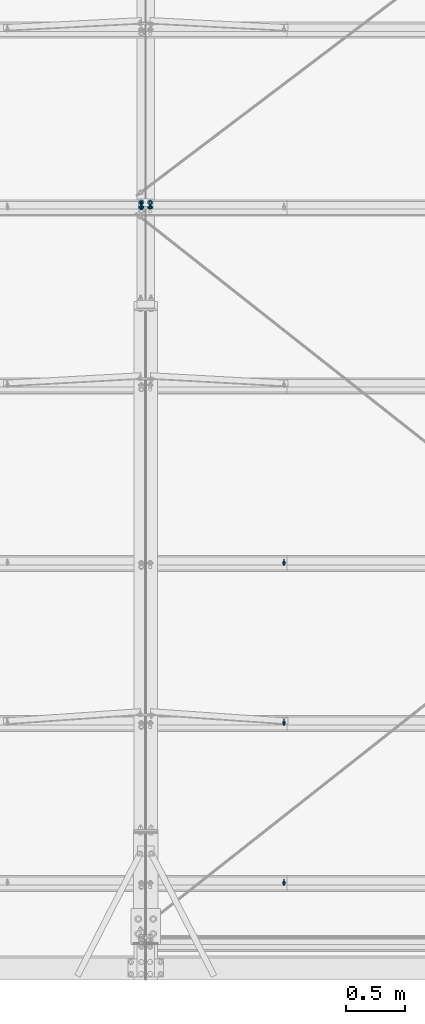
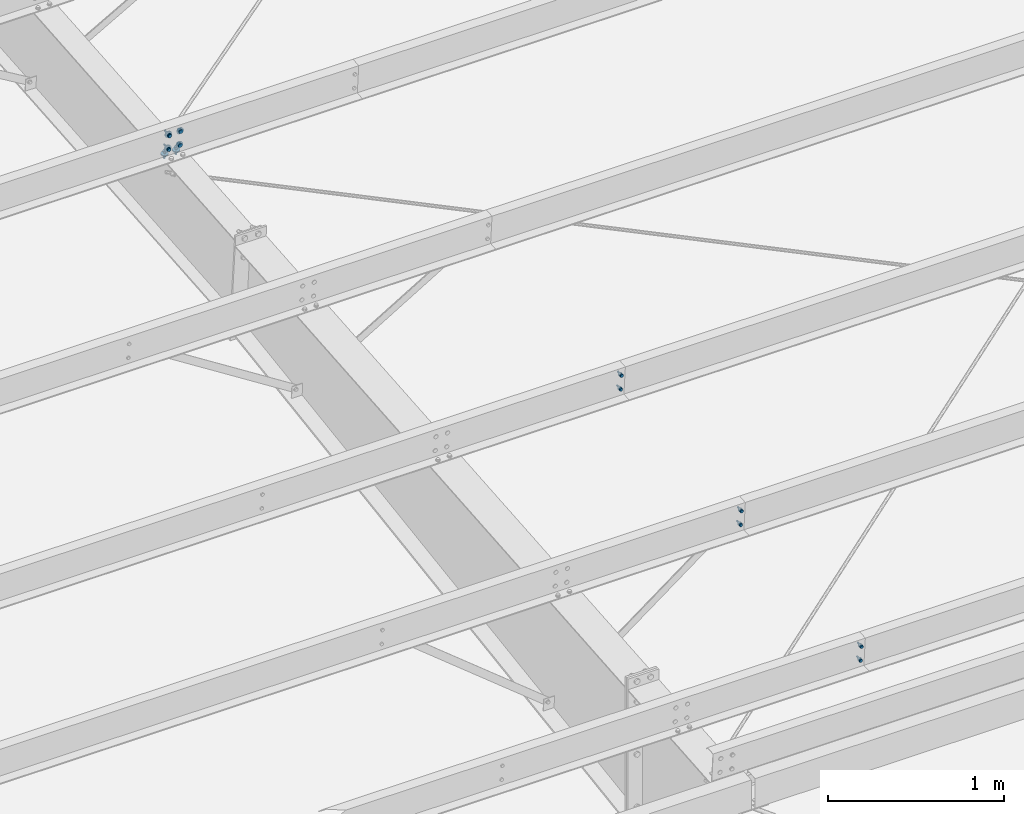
# One storey, part 65 of 185: 8 mechanical fasteners, 7 elements without a shape of their own.
"""IFC2X3 building model written with IfcOpenShell, lengths in millimetres."""

from ifc_helpers import new_model, si_unit, frame, origin_with_axes, origin_2d_with_axis, place, context, subcontext, project, spatial, polyline, circle, outline, extrude, source, transform, mapped, material, type_object, element, aggregate, save


model = new_model("IFC2X3")

# Units and contexts
model_context = context("Model", 3, precision=1e-05, world=origin_with_axes())
body_context = subcontext(model_context, "Body", "Model", "MODEL_VIEW")
ifc_project = project(units=[si_unit("LENGTHUNIT", "METRE", prefix="MILLI"), si_unit("AREAUNIT", "SQUARE_METRE"), si_unit("VOLUMEUNIT", "CUBIC_METRE"), si_unit("MASSUNIT", "GRAM", prefix="KILO"), si_unit("TIMEUNIT", "SECOND"), si_unit("PLANEANGLEUNIT", "RADIAN"), si_unit("SOLIDANGLEUNIT", "STERADIAN"), si_unit("THERMODYNAMICTEMPERATUREUNIT", "DEGREE_CELSIUS"), si_unit("LUMINOUSINTENSITYUNIT", "LUMEN")], contexts=[model_context])

# Site, building, storey
site_placement = place(None, origin_with_axes())
site = spatial("IfcSite", under=ifc_project, at=site_placement, Name="Undefined", CompositionType="ELEMENT")
building_placement = place(site_placement, origin_with_axes())
building = spatial("IfcBuilding", under=site, at=building_placement, Name="Undefined", CompositionType="ELEMENT")
storey_placement = place(building_placement, origin_with_axes())
storey = spatial("IfcBuildingStorey", under=building, at=storey_placement, Name="Undefined", CompositionType="ELEMENT", Elevation=0.0)

# Assembly, mechanical fastener
assembly_1_placement = place(storey_placement, origin_with_axes())
assembly_1 = element("IfcElementAssembly", 1, at=assembly_1_placement, inside=storey, Name="Steel Assembly", AssemblyPlace="NOTDEFINED", PredefinedType="RIGID_FRAME")
ifc_material = material(Name="Undefined")
discrete_accessory_type = type_object("IfcDiscreteAccessoryType", Name="Bolt assembly")
shared_shape_1 = source(origin_with_axes(), body_context, "Body", "SweptSolid", [
    extrude(circle(Radius=7.14374971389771, at=origin_2d_with_axis()), frame((0.0, -1.59000001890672, 0.0), z_axis=(0.0, 1.0, 0.0), x_axis=(1.0, 0.0, 0.0)), (0.0, 0.0, 1.0), 3.3),
    extrude(circle(Radius=13.4937496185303, at=origin_2d_with_axis()), frame((0.0, -5.5587500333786, 0.0), z_axis=(0.0, 1.0, 0.0), x_axis=(1.0, 0.0, 0.0)), (0.0, 0.0, 1.0), 4.0),
    extrude(circle(Radius=22.2250003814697, at=origin_2d_with_axis()), frame((0.0, 1.5900000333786, 0.0), z_axis=(0.0, 1.0, 0.0), x_axis=(1.0, 0.0, 0.0)), (0.0, 0.0, 1.0), 7.9),
    extrude(outline(polyline([(12.8316099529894, 0.0), (6.4158049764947, 11.1125001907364), (-6.4158049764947, 11.1125001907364), (-12.8316099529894, 0.0), (-6.4158049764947, -11.1125001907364), (6.4158049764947, -11.1125001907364), (12.8316099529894, 0.0)])), frame((0.0, 9.5275000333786, 0.0), z_axis=(0.0, 1.0, 0.0), x_axis=(1.0, 0.0, 0.0)), (0.0, 0.0, 1.0), 12.3),
])
mechanical_fastener_1_placement = place(assembly_1_placement, frame((7277.1, 6590.05757436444, 6594.19538192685), z_axis=(1.0, 0.0, 0.0), x_axis=(0.0, 0.0830454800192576, -0.996545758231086)))
mechanical_fastener_1 = element("IfcMechanicalFastener", 2, at=mechanical_fastener_1_placement, type_object=discrete_accessory_type, material=ifc_material, Name="Bolt assembly", NominalDiameter=12.6999998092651, NominalLength=38.0999984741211, context=body_context, shape_type="MappedRepresentation", body=[
    mapped(shared_shape_1, transform((0.0, 0.0, 0.0))),
    mapped(shared_shape_1, transform((101.599998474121, 0.0, 0.0))),
])
aggregate(assembly_1, [mechanical_fastener_1])

assembly_2_placement = place(storey_placement, origin_with_axes())
assembly_2 = element("IfcElementAssembly", 3, at=assembly_2_placement, inside=storey, Name="Steel Assembly", AssemblyPlace="NOTDEFINED", PredefinedType="RIGID_FRAME")
mechanical_fastener_2_placement = place(assembly_2_placement, frame((7200.9, 6590.05757430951, 6594.19538268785), z_axis=(1.0, 0.0, 0.0), x_axis=(0.0, 0.0830454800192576, -0.996545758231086)))
mechanical_fastener_2 = element("IfcMechanicalFastener", 4, at=mechanical_fastener_2_placement, type_object=discrete_accessory_type, material=ifc_material, Name="Bolt assembly", NominalDiameter=12.6999998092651, NominalLength=38.0999984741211, context=body_context, shape_type="MappedRepresentation", body=[
    mapped(shared_shape_1, transform((0.0, 0.0, 0.0))),
    mapped(shared_shape_1, transform((101.599998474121, 0.0, 0.0))),
])
aggregate(assembly_2, [mechanical_fastener_2])

assembly_3_placement = place(storey_placement, origin_with_axes())
assembly_3 = element("IfcElementAssembly", 5, at=assembly_3_placement, inside=storey, Name="Steel Assembly", AssemblyPlace="NOTDEFINED", PredefinedType="RIGID_FRAME")
shared_shape_2 = source(origin_with_axes(), body_context, "Body", "SweptSolid", [
    extrude(circle(Radius=7.14374971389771, at=origin_2d_with_axis()), frame((0.0, -1.69000003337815, 0.0), z_axis=(0.0, 1.0, 0.0), x_axis=(1.0, 0.0, 0.0)), (0.0, 0.0, 1.0), 3.3),
    extrude(circle(Radius=7.14374971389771, at=origin_2d_with_axis()), frame((0.0, -1.4900000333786, 0.0), z_axis=(0.0, 1.0, 0.0), x_axis=(1.0, 0.0, 0.0)), (0.0, 0.0, 1.0), 3.2),
    extrude(outline(polyline([(10.9985221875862, 0.0), (5.4992610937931, 9.52499961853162), (-5.4992610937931, 9.52499961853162), (-10.9985221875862, 0.0), (-5.4992610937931, -9.52499961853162), (5.4992610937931, -9.52499961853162), (10.9985221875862, 0.0)])), frame((0.0, -11.1149996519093, 0.0), z_axis=(0.0, 1.0, 0.0), x_axis=(1.0, 0.0, 0.0)), (0.0, 0.0, 1.0), 9.5),
    extrude(circle(Radius=6.34999990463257, at=origin_2d_with_axis()), frame((0.0, -1.59000001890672, 0.0), z_axis=(0.0, 1.0, 0.0), x_axis=(1.0, 0.0, 0.0)), (0.0, 0.0, 1.0), 38.1),
    extrude(outline(polyline([(12.8316099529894, 0.0), (6.4158049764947, 11.1125001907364), (-6.4158049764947, 11.1125001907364), (-12.8316099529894, 0.0), (-6.4158049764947, -11.1125001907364), (6.4158049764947, -11.1125001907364), (12.8316099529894, 0.0)])), frame((0.0, 1.5900000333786, 0.0), z_axis=(0.0, 1.0, 0.0), x_axis=(1.0, 0.0, 0.0)), (0.0, 0.0, 1.0), 12.3),
])
mechanical_fastener_3_placement = place(assembly_3_placement, frame((8420.1, 3552.58610327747, 6341.07275882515), z_axis=(1.0, 0.0, 0.0), x_axis=(0.0, 0.0830454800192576, -0.996545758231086)))
mechanical_fastener_3 = element("IfcMechanicalFastener", 6, at=mechanical_fastener_3_placement, type_object=discrete_accessory_type, material=ifc_material, Name="Bolt assembly", NominalDiameter=12.6999998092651, NominalLength=38.0999984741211, context=body_context, shape_type="MappedRepresentation", body=[
    mapped(shared_shape_2, transform((0.0, 0.0, 0.0))),
    mapped(shared_shape_2, transform((101.599998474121, 0.0, 0.0))),
])
aggregate(assembly_3, [mechanical_fastener_3])

assembly_4_placement = place(storey_placement, origin_with_axes())
assembly_4 = element("IfcElementAssembly", 7, at=assembly_4_placement, inside=storey, Name="Steel Assembly", AssemblyPlace="NOTDEFINED", PredefinedType="RIGID_FRAME")
shared_shape_3 = source(origin_with_axes(), body_context, "Body", "SweptSolid", [
    extrude(circle(Radius=7.14374971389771, at=origin_2d_with_axis()), frame((0.0, -4.65999985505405, 0.0), z_axis=(0.0, 1.0, 0.0), x_axis=(1.0, 0.0, 0.0)), (0.0, 0.0, 1.0), 4.8),
    extrude(circle(Radius=7.14374971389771, at=origin_2d_with_axis()), frame((0.0, -0.0238014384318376, 0.0), z_axis=(0.0, 1.0, 0.0), x_axis=(1.0, 0.0, 0.0)), (0.0, 0.0, 1.0), 8.0),
    extrude(outline(polyline([(12.8316099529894, 0.0), (6.4158049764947, 11.1125001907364), (-6.4158049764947, 11.1125001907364), (-12.8316099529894, 0.0), (-6.4158049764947, -11.1125001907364), (6.4158049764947, -11.1125001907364), (12.8316099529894, 0.0)])), frame((0.0, -12.697499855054, 0.0), z_axis=(0.0, 1.0, 0.0), x_axis=(1.0, 0.0, 0.0)), (0.0, 0.0, 1.0), 7.9),
    extrude(circle(Radius=6.34999990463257, at=origin_2d_with_axis()), frame((0.0, -4.75999985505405, 0.0), z_axis=(0.0, 1.0, 0.0), x_axis=(1.0, 0.0, 0.0)), (0.0, 0.0, 1.0), 50.8),
    extrude(circle(Radius=22.2250003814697, at=origin_2d_with_axis()), frame((0.0, 7.95019856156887, 0.0), z_axis=(0.0, 1.0, 0.0), x_axis=(1.0, 0.0, 0.0)), (0.0, 0.0, 1.0), 7.9),
    extrude(outline(polyline([(12.8316099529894, 0.0), (6.4158049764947, 11.1125001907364), (-6.4158049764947, 11.1125001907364), (-12.8316099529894, 0.0), (-6.4158049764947, -11.1125001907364), (6.4158049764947, -11.1125001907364), (12.8316099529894, 0.0)])), frame((0.0, 15.8876985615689, 0.0), z_axis=(0.0, 1.0, 0.0), x_axis=(1.0, 0.0, 0.0)), (0.0, 0.0, 1.0), 12.3),
])
mechanical_fastener_4_placement = place(assembly_4_placement, frame((7239.0, 6640.68209888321, 6445.4858411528), z_axis=(-1.0, 0.0, 0.0), x_axis=(0.0, 0.996545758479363, 0.0830454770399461)))
mechanical_fastener_4 = element("IfcMechanicalFastener", 8, at=mechanical_fastener_4_placement, type_object=discrete_accessory_type, material=ifc_material, Name="Bolt assembly", NominalDiameter=12.6999998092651, NominalLength=50.7999992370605, context=body_context, shape_type="MappedRepresentation", body=[
    mapped(shared_shape_3, transform((0.0, 0.0, -38.0999984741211))),
    mapped(shared_shape_3, transform((0.0, 0.0, 38.0999984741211))),
])
aggregate(assembly_4, [mechanical_fastener_4])

# Assembly, mechanical fasteners
assembly_5_placement = place(storey_placement, origin_with_axes())
assembly_5 = element("IfcElementAssembly", 9, at=assembly_5_placement, inside=storey, Name="Steel Assembly", AssemblyPlace="NOTDEFINED", PredefinedType="RIGID_FRAME")
shared_shape_4 = source(origin_with_axes(), body_context, "Body", "SweptSolid", [
    extrude(circle(Radius=7.14374971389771, at=origin_2d_with_axis()), frame((0.0, 0.0, 0.0), z_axis=(0.0, 1.0, 0.0), x_axis=(1.0, 0.0, 0.0)), (0.0, 0.0, 1.0), 4.9),
    extrude(outline(polyline([(12.8316099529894, 0.0), (6.4158049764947, 11.1125001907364), (-6.4158049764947, 11.1125001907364), (-12.8316099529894, 0.0), (-6.4158049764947, -11.1125001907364), (6.4158049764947, -11.1125001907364), (12.8316099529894, 0.0)])), frame((0.0, 4.76000382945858, 0.0), z_axis=(0.0, 1.0, 0.0), x_axis=(1.0, 0.0, 0.0)), (0.0, 0.0, 1.0), 12.3),
])
mechanical_fastener_5_placement = place(assembly_5_placement, frame((7277.1, 6590.05757436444, 6594.19538192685), z_axis=(1.0, 0.0, 0.0), x_axis=(0.0, 0.0830454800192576, -0.996545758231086)))
mechanical_fastener_5 = element("IfcMechanicalFastener", 10, at=mechanical_fastener_5_placement, type_object=discrete_accessory_type, material=ifc_material, Name="Bolt assembly", NominalDiameter=12.6999998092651, NominalLength=50.7999992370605, context=body_context, shape_type="MappedRepresentation", body=[
    mapped(shared_shape_4, transform((0.0, 0.0, 0.0))),
    mapped(shared_shape_4, transform((101.599998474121, 0.0, 0.0))),
])
shared_shape_5 = source(origin_with_axes(), body_context, "Body", "SweptSolid", [
    extrude(circle(Radius=7.14374971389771, at=origin_2d_with_axis()), frame((0.0, 0.0, 0.0), z_axis=(0.0, 1.0, 0.0), x_axis=(1.0, 0.0, 0.0)), (0.0, 0.0, 1.0), 4.9),
    extrude(outline(polyline([(12.8316099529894, 0.0), (6.4158049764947, 11.1125001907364), (-6.4158049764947, 11.1125001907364), (-12.8316099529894, 0.0), (-6.4158049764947, -11.1125001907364), (6.4158049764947, -11.1125001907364), (12.8316099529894, 0.0)])), frame((0.0, -11.9062498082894, 0.0), z_axis=(0.0, 1.0, 0.0), x_axis=(1.0, 0.0, 0.0)), (0.0, 0.0, 1.0), 7.9),
    extrude(circle(Radius=6.34999990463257, at=origin_2d_with_axis()), frame((0.0, -3.96874999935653, 0.0), z_axis=(0.0, 1.0, 0.0), x_axis=(1.0, 0.0, 0.0)), (0.0, 0.0, 1.0), 50.8),
    extrude(circle(Radius=13.4937496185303, at=origin_2d_with_axis()), frame((0.0, -3.96874999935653, 0.0), z_axis=(0.0, 1.0, 0.0), x_axis=(1.0, 0.0, 0.0)), (0.0, 0.0, 1.0), 4.0),
    extrude(circle(Radius=22.2250003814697, at=origin_2d_with_axis()), frame((0.0, 4.76000382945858, 0.0), z_axis=(0.0, 1.0, 0.0), x_axis=(1.0, 0.0, 0.0)), (0.0, 0.0, 1.0), 7.9),
    extrude(outline(polyline([(12.8316099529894, 0.0), (6.4158049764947, 11.1125001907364), (-6.4158049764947, 11.1125001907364), (-12.8316099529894, 0.0), (-6.4158049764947, -11.1125001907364), (6.4158049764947, -11.1125001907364), (12.8316099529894, 0.0)])), frame((0.0, 12.6975038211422, 0.0), z_axis=(0.0, 1.0, 0.0), x_axis=(1.0, 0.0, 0.0)), (0.0, 0.0, 1.0), 12.3),
])
mechanical_fastener_6_placement = place(assembly_5_placement, frame((7200.9, 6590.05757430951, 6594.19538268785), z_axis=(1.0, 0.0, 0.0), x_axis=(0.0, 0.0830454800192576, -0.996545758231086)))
mechanical_fastener_6 = element("IfcMechanicalFastener", 11, at=mechanical_fastener_6_placement, type_object=discrete_accessory_type, material=ifc_material, Name="Bolt assembly", NominalDiameter=12.6999998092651, NominalLength=50.7999992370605, context=body_context, shape_type="MappedRepresentation", body=[
    mapped(shared_shape_5, transform((0.0, 0.0, 0.0))),
    mapped(shared_shape_5, transform((101.599998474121, 0.0, 0.0))),
])
aggregate(assembly_5, [mechanical_fastener_5, mechanical_fastener_6])

# Assembly, mechanical fastener
assembly_6_placement = place(storey_placement, origin_with_axes())
assembly_6 = element("IfcElementAssembly", 12, at=assembly_6_placement, inside=storey, Name="Steel Assembly", AssemblyPlace="NOTDEFINED", PredefinedType="RIGID_FRAME")
shared_shape_6 = source(origin_with_axes(), body_context, "Body", "SweptSolid", [
    extrude(circle(Radius=7.14374971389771, at=origin_2d_with_axis()), frame((0.0, -1.4900000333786, 0.0), z_axis=(0.0, 1.0, 0.0), x_axis=(1.0, 0.0, 0.0)), (0.0, 0.0, 1.0), 3.2),
    extrude(circle(Radius=7.14374971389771, at=origin_2d_with_axis()), frame((0.0, -1.4900000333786, 0.0), z_axis=(0.0, 1.0, 0.0), x_axis=(1.0, 0.0, 0.0)), (0.0, 0.0, 1.0), 3.2),
    extrude(outline(polyline([(10.9985221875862, 0.0), (5.4992610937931, 9.52499961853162), (-5.4992610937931, 9.52499961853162), (-10.9985221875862, 0.0), (-5.4992610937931, -9.52499961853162), (5.4992610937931, -9.52499961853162), (10.9985221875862, 0.0)])), frame((0.0, -11.1149996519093, 0.0), z_axis=(0.0, 1.0, 0.0), x_axis=(1.0, 0.0, 0.0)), (0.0, 0.0, 1.0), 9.5),
    extrude(circle(Radius=6.34999990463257, at=origin_2d_with_axis()), frame((0.0, -1.59000001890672, 0.0), z_axis=(0.0, 1.0, 0.0), x_axis=(1.0, 0.0, 0.0)), (0.0, 0.0, 1.0), 38.1),
    extrude(outline(polyline([(12.8316099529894, 0.0), (6.4158049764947, 11.1125001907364), (-6.4158049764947, 11.1125001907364), (-12.8316099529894, 0.0), (-6.4158049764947, -11.1125001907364), (6.4158049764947, -11.1125001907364), (12.8316099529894, 0.0)])), frame((0.0, 1.5900000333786, 0.0), z_axis=(0.0, 1.0, 0.0), x_axis=(1.0, 0.0, 0.0)), (0.0, 0.0, 1.0), 12.3),
])
mechanical_fastener_7_placement = place(assembly_6_placement, frame((8420.1, 2185.7239412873, 6227.16757842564), z_axis=(1.0, 0.0, 0.0), x_axis=(0.0, 0.0830454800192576, -0.996545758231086)))
mechanical_fastener_7 = element("IfcMechanicalFastener", 13, at=mechanical_fastener_7_placement, type_object=discrete_accessory_type, material=ifc_material, Name="Bolt assembly", NominalDiameter=12.6999998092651, NominalLength=38.0999984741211, context=body_context, shape_type="MappedRepresentation", body=[
    mapped(shared_shape_6, transform((0.0, 0.0, 0.0))),
    mapped(shared_shape_6, transform((101.599998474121, 0.0, 0.0))),
])
aggregate(assembly_6, [mechanical_fastener_7])

assembly_7_placement = place(storey_placement, origin_with_axes())
assembly_7 = element("IfcElementAssembly", 14, at=assembly_7_placement, inside=storey, Name="Steel Assembly", AssemblyPlace="NOTDEFINED", PredefinedType="RIGID_FRAME")
mechanical_fastener_8_placement = place(assembly_7_placement, frame((8420.1, 818.861779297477, 6113.26239802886), z_axis=(1.0, 0.0, 0.0), x_axis=(0.0, 0.0830454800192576, -0.996545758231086)))
mechanical_fastener_8 = element("IfcMechanicalFastener", 15, at=mechanical_fastener_8_placement, type_object=discrete_accessory_type, material=ifc_material, Name="Bolt assembly", NominalDiameter=12.6999998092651, NominalLength=38.0999984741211, context=body_context, shape_type="MappedRepresentation", body=[
    mapped(shared_shape_6, transform((0.0, 0.0, 0.0))),
    mapped(shared_shape_6, transform((101.599998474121, 0.0, 0.0))),
])
aggregate(assembly_7, [mechanical_fastener_8])

save(model, "model.ifc")
